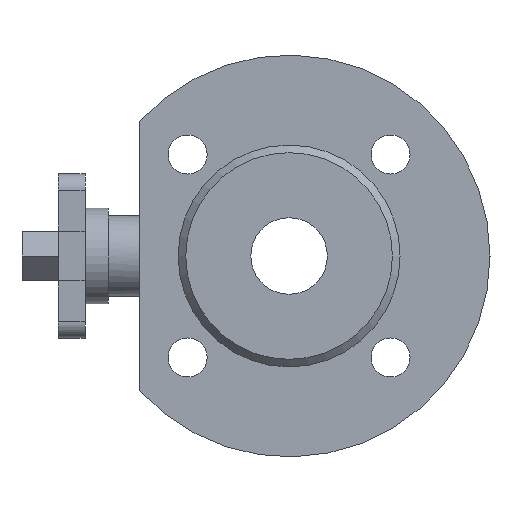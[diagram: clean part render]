
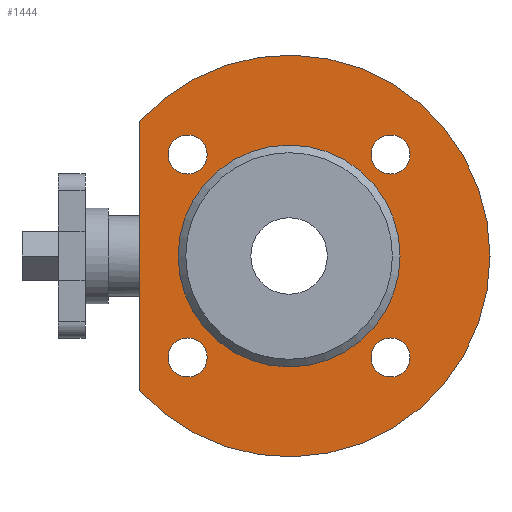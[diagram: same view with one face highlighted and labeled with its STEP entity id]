
A CAD part, left-side view. The second image highlights one B-rep face of the part: STEP entity #1444.
In plain terms, the highlighted planar face has unit normal (-1, 0, 0).
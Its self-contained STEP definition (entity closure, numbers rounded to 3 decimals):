
#6 = FACE_BOUND ( 'NONE', #792, .T. ) ;
#17 = DIRECTION ( 'NONE',  ( 0., 0., -1. ) ) ;
#59 = DIRECTION ( 'NONE',  ( -1., 0., 0. ) ) ;
#62 = ORIENTED_EDGE ( 'NONE', *, *, #1701, .F. ) ;
#78 = CARTESIAN_POINT ( 'NONE',  ( -17., 26.517, 26.517 ) ) ;
#99 = CARTESIAN_POINT ( 'NONE',  ( -17., -26.517, -31.617 ) ) ;
#168 = CIRCLE ( 'NONE', #532, 52.5 ) ;
#223 = CARTESIAN_POINT ( 'NONE',  ( -17., 39., 35.146 ) ) ;
#251 = DIRECTION ( 'NONE',  ( 0., 0., 1. ) ) ;
#269 = CARTESIAN_POINT ( 'NONE',  ( -17., 26.517, 31.617 ) ) ;
#326 = VECTOR ( 'NONE', #399, 1000. ) ;
#357 = CIRCLE ( 'NONE', #635, 5.1 ) ;
#372 = DIRECTION ( 'NONE',  ( -1., 0., 0. ) ) ;
#376 = DIRECTION ( 'NONE',  ( -1., 0., 0. ) ) ;
#399 = DIRECTION ( 'NONE',  ( 0., 0., -1. ) ) ;
#411 = VERTEX_POINT ( 'NONE', #1227 ) ;
#437 = FACE_BOUND ( 'NONE', #2058, .T. ) ;
#462 = EDGE_LOOP ( 'NONE', ( #1363, #834 ) ) ;
#532 = AXIS2_PLACEMENT_3D ( 'NONE', #1337, #376, #1515 ) ;
#538 = CARTESIAN_POINT ( 'NONE',  ( -17., -26.517, 26.517 ) ) ;
#558 = DIRECTION ( 'NONE',  ( -1., 0., 0. ) ) ;
#579 = CARTESIAN_POINT ( 'NONE',  ( -17., 39., -35.146 ) ) ;
#610 = AXIS2_PLACEMENT_3D ( 'NONE', #78, #1207, #251 ) ;
#624 = AXIS2_PLACEMENT_3D ( 'NONE', #1537, #558, #1717 ) ;
#635 = AXIS2_PLACEMENT_3D ( 'NONE', #1038, #59, #1187 ) ;
#637 = AXIS2_PLACEMENT_3D ( 'NONE', #538, #1696, #710 ) ;
#652 = AXIS2_PLACEMENT_3D ( 'NONE', #1332, #372, #1507 ) ;
#679 = ORIENTED_EDGE ( 'NONE', *, *, #1656, .F. ) ;
#710 = DIRECTION ( 'NONE',  ( 0., -1., 0. ) ) ;
#763 = EDGE_LOOP ( 'NONE', ( #2077 ) ) ;
#792 = EDGE_LOOP ( 'NONE', ( #62 ) ) ;
#799 = AXIS2_PLACEMENT_3D ( 'NONE', #2005, #1000, #17 ) ;
#834 = ORIENTED_EDGE ( 'NONE', *, *, #1713, .T. ) ;
#844 = VERTEX_POINT ( 'NONE', #99 ) ;
#876 = FACE_BOUND ( 'NONE', #763, .T. ) ;
#973 = FACE_BOUND ( 'NONE', #1165, .T. ) ;
#1000 = DIRECTION ( 'NONE',  ( 1., 0., 0. ) ) ;
#1038 = CARTESIAN_POINT ( 'NONE',  ( -17., -26.517, -26.517 ) ) ;
#1068 = CARTESIAN_POINT ( 'NONE',  ( -17., -31.617, 26.517 ) ) ;
#1165 = EDGE_LOOP ( 'NONE', ( #1599 ) ) ;
#1174 = LINE ( 'NONE', #2054, #326 ) ;
#1187 = DIRECTION ( 'NONE',  ( 0., 0., -1. ) ) ;
#1207 = DIRECTION ( 'NONE',  ( -1., 0., 0. ) ) ;
#1227 = CARTESIAN_POINT ( 'NONE',  ( -17., 31.617, -26.517 ) ) ;
#1229 = CIRCLE ( 'NONE', #624, 5.1 ) ;
#1244 = FACE_OUTER_BOUND ( 'NONE', #462, .T. ) ;
#1264 = VERTEX_POINT ( 'NONE', #1068 ) ;
#1332 = CARTESIAN_POINT ( 'NONE',  ( -17., 0., 0. ) ) ;
#1337 = CARTESIAN_POINT ( 'NONE',  ( -17., 0., 0. ) ) ;
#1363 = ORIENTED_EDGE ( 'NONE', *, *, #1769, .T. ) ;
#1444 = ADVANCED_FACE ( 'NONE', ( #437, #876, #973, #6, #1708, #1244 ), #1651, .F. ) ;
#1507 = DIRECTION ( 'NONE',  ( 0., 0., 1. ) ) ;
#1515 = DIRECTION ( 'NONE',  ( 0., 0., 1. ) ) ;
#1537 = CARTESIAN_POINT ( 'NONE',  ( -17., 26.517, -26.517 ) ) ;
#1599 = ORIENTED_EDGE ( 'NONE', *, *, #1690, .F. ) ;
#1644 = EDGE_CURVE ( 'NONE', #1728, #1728, #2103, .T. ) ;
#1651 = PLANE ( 'NONE',  #799 ) ;
#1656 = EDGE_CURVE ( 'NONE', #1264, #1264, #1664, .T. ) ;
#1659 = VERTEX_POINT ( 'NONE', #223 ) ;
#1663 = EDGE_CURVE ( 'NONE', #844, #844, #357, .T. ) ;
#1664 = CIRCLE ( 'NONE', #637, 5.1 ) ;
#1681 = CIRCLE ( 'NONE', #610, 5.1 ) ;
#1690 = EDGE_CURVE ( 'NONE', #411, #411, #1229, .T. ) ;
#1696 = DIRECTION ( 'NONE',  ( -1., 0., 0. ) ) ;
#1701 = EDGE_CURVE ( 'NONE', #2100, #2100, #1681, .T. ) ;
#1708 = FACE_BOUND ( 'NONE', #1839, .T. ) ;
#1713 = EDGE_CURVE ( 'NONE', #1659, #2113, #1174, .T. ) ;
#1717 = DIRECTION ( 'NONE',  ( 0., 1., 0. ) ) ;
#1728 = VERTEX_POINT ( 'NONE', #2068 ) ;
#1769 = EDGE_CURVE ( 'NONE', #2113, #1659, #168, .T. ) ;
#1839 = EDGE_LOOP ( 'NONE', ( #2086 ) ) ;
#2005 = CARTESIAN_POINT ( 'NONE',  ( -17., 52.5, 0. ) ) ;
#2054 = CARTESIAN_POINT ( 'NONE',  ( -17., 39., 0. ) ) ;
#2058 = EDGE_LOOP ( 'NONE', ( #679 ) ) ;
#2068 = CARTESIAN_POINT ( 'NONE',  ( -17., 0., 29. ) ) ;
#2077 = ORIENTED_EDGE ( 'NONE', *, *, #1663, .F. ) ;
#2086 = ORIENTED_EDGE ( 'NONE', *, *, #1644, .F. ) ;
#2100 = VERTEX_POINT ( 'NONE', #269 ) ;
#2103 = CIRCLE ( 'NONE', #652, 29. ) ;
#2113 = VERTEX_POINT ( 'NONE', #579 ) ;
